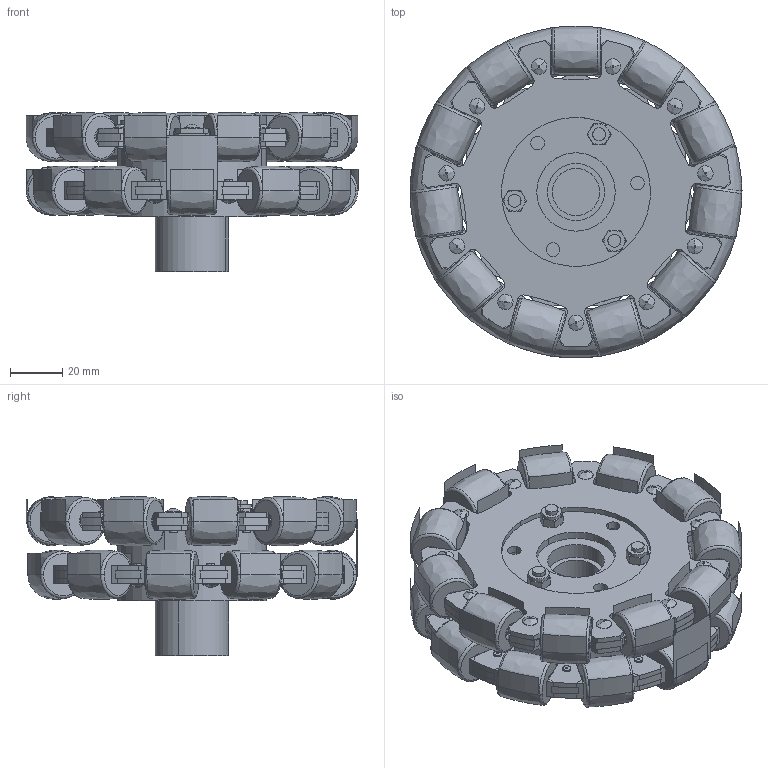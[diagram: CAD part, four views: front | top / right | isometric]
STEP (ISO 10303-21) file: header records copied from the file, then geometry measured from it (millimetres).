
FILE_DESCRIPTION((''),'2;1');
FILE_NAME('MO119.STEP','2012-12-05T',('Administrator'),(''),'PRO/ENGINEER BY PARAMETRIC TECHNOLOGY CORPORATION, 2009360','PRO/ENGINEER BY PARAMETRIC TECHNOLOGY CORPORATION, 2009360','');
FILE_SCHEMA(('CONFIG_CONTROL_DESIGN'));
Length unit declared in the file: millimetre
Products named in the file (11): J1; J2; J4; J3; J5; J6; J11; J12; J13; J14; MO119
Assembly tree (81 placements, depth 2):
  MO119
    J1
    J2  x22
    J4  x4
    J3  x2
    J5
    J6
    J11  x22
    J12  x3
    J13  x3
    J14  x22
Bounding box: 126.98 x 126.7 x 60.85 mm (x, y, z)
Volume: 312463.2 mm3; surface area: 177218.5 mm2
Topology: 81 solids, 126 shells, 1881 faces, 4787 edges, 3144 vertices
Faces by surface type: cylinder 868, plane 694, torus 215, bspline 88, cone 16
Entity records: 20943 total; most frequent: CARTESIAN_POINT 3970, DIRECTION 3710, ORIENTED_EDGE 3298, EDGE_CURVE 1655, AXIS2_PLACEMENT_3D 1378, VERTEX_POINT 1096, VECTOR 954, LINE 954
